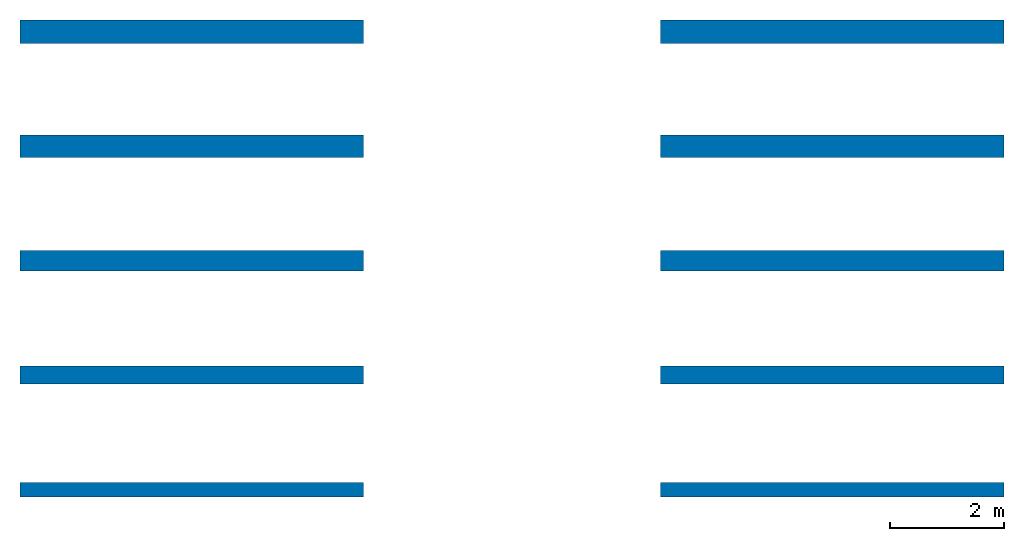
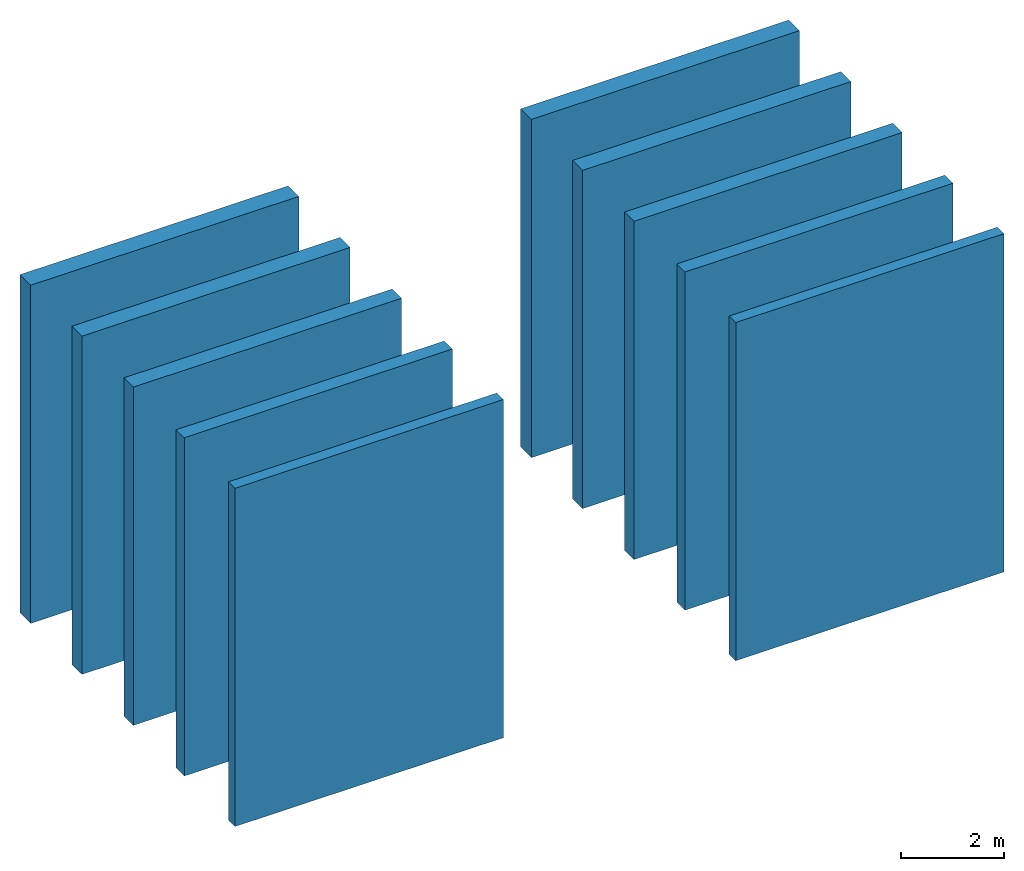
# One storey: 10 walls.
"""IFC2X3 building model written with IfcOpenShell, lengths in millimetres."""

from ifc_helpers import new_model, entity, si_unit, converted_unit, derived_unit, direction, frame, frame_2d, origin, place, context, subcontext, project, spatial, rectangle, extrude, material, layer, layer_set, layer_usage, type_object, element, save


model = new_model("IFC2X3")

# Units and contexts
model_context = context("Model", 3, precision=0.01, world=origin(), true_north=direction((6.12303176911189e-17, 1.0)))
context_of_model = context(None, 3, precision=0.01, world=origin(), true_north=direction((6.12303176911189e-17, 1.0)))
body_context = subcontext(model_context, "Body", "Model", "MODEL_VIEW")
ifc_project = project(units=[si_unit("LENGTHUNIT", "METRE", prefix="MILLI"), si_unit("AREAUNIT", "SQUARE_METRE"), si_unit("VOLUMEUNIT", "CUBIC_METRE"), converted_unit("PLANEANGLEUNIT", "DEGREE", entity("IfcRatioMeasure", 0.0174532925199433), si_unit("PLANEANGLEUNIT", "RADIAN"), dimensions=[0, 0, 0, 0, 0, 0, 0]), si_unit("MASSUNIT", "GRAM", prefix="KILO"), si_unit("TIMEUNIT", "SECOND"), si_unit("FREQUENCYUNIT", "HERTZ"), si_unit("THERMODYNAMICTEMPERATUREUNIT", "DEGREE_CELSIUS"), derived_unit("THERMALTRANSMITTANCEUNIT", [(si_unit("MASSUNIT", "GRAM", prefix="KILO"), 1), (si_unit("THERMODYNAMICTEMPERATUREUNIT", "KELVIN"), -1), (si_unit("TIMEUNIT", "SECOND"), -3)]), derived_unit("VOLUMETRICFLOWRATEUNIT", [(si_unit("LENGTHUNIT", "METRE"), 3), (si_unit("TIMEUNIT", "SECOND"), -1)]), si_unit("ELECTRICCURRENTUNIT", "AMPERE"), si_unit("ELECTRICVOLTAGEUNIT", "VOLT"), si_unit("POWERUNIT", "WATT"), si_unit("FORCEUNIT", "NEWTON", prefix="KILO"), si_unit("ILLUMINANCEUNIT", "LUX"), si_unit("LUMINOUSFLUXUNIT", "LUMEN"), si_unit("LUMINOUSINTENSITYUNIT", "CANDELA"), si_unit("PRESSUREUNIT", "PASCAL")], contexts=[model_context, context_of_model])

# Site, building, storey
site_placement = place(None, origin())
site = spatial("IfcSite", under=ifc_project, at=site_placement, Name="Default", CompositionType="ELEMENT")
building_placement = place(site_placement, origin())
building = spatial("IfcBuilding", under=site, at=building_placement, CompositionType="ELEMENT")
storey_placement = place(building_placement, origin())
storey = spatial("IfcBuildingStorey", under=building, at=storey_placement, Name="Livello 1", CompositionType="ELEMENT", Elevation=0.0)

# Walls
ifc_material_1 = material(Name="GASBETON Multiraso interni")
ifc_layer_1 = layer(ifc_material_1, 2.0)
ifc_material_2 = material(Name="GASBETON Incollarasa")
ifc_layer_2 = layer(ifc_material_2, 5.0)
ifc_material_3 = material(Name="GASBETON Sysmic")
ifc_layer_3 = layer(ifc_material_3, 400.0)
ifc_layer_4 = layer(ifc_material_2, 5.00000000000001)
ifc_layer_5 = layer(ifc_material_1, 2.00000000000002)
ifc_layer_set_1 = layer_set([ifc_layer_1, ifc_layer_2, ifc_layer_3, ifc_layer_4, ifc_layer_5], Name="Muro di base:Sistema GASBETON Sysmic sp. 414 mm muratura portante")
ifc_layer_usage_1 = layer_usage(ifc_layer_set_1, "AXIS2", "NEGATIVE", 207.0)
wall_type_1 = type_object("IfcWallType", Name="Muro di base:Sistema GASBETON Sysmic sp. 414 mm muratura portante", PredefinedType="STANDARD", material=ifc_layer_set_1)
wall_1_placement = place(storey_placement, frame((-2530.39888114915, 8446.74124989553, 0.0), z_axis=(0.0, 0.0, 1.0), x_axis=(-1.0, 0.0, 0.0)))
element("IfcWallStandardCase", 1, at=wall_1_placement, inside=storey, type_object=wall_type_1, material=ifc_layer_usage_1, Name="Muro di base:Sistema GASBETON Sysmic sp. 414 mm muratura portante", ObjectType="Muro di base:Sistema GASBETON Sysmic sp. 414 mm muratura portante", context=body_context, shape_type="SweptSolid", body=[
    extrude(rectangle(XDim=6000.0, YDim=413.999999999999, at=frame_2d((3000.0, 0.0), x_axis=(-1.0, 0.0))), origin(), (0.0, 0.0, 1.0), 8000.0),
])
ifc_layer_6 = layer(ifc_material_1, 2.0)
ifc_layer_7 = layer(ifc_material_2, 5.0)
ifc_layer_8 = layer(ifc_material_3, 375.0)
ifc_layer_9 = layer(ifc_material_2, 5.00000000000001)
ifc_layer_10 = layer(ifc_material_1, 2.00000000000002)
ifc_layer_set_2 = layer_set([ifc_layer_6, ifc_layer_7, ifc_layer_8, ifc_layer_9, ifc_layer_10], Name="Muro di base:Sistema GASBETON Sysmic sp. 389 mm muratura portante")
ifc_layer_usage_2 = layer_usage(ifc_layer_set_2, "AXIS2", "NEGATIVE", 194.5)
wall_type_2 = type_object("IfcWallType", Name="Muro di base:Sistema GASBETON Sysmic sp. 389 mm muratura portante", PredefinedType="STANDARD", material=ifc_layer_set_2)
wall_2_placement = place(storey_placement, frame((-2530.39888114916, 6446.74124989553, 0.0), z_axis=(0.0, 0.0, 1.0), x_axis=(-1.0, 0.0, 0.0)))
element("IfcWallStandardCase", 2, at=wall_2_placement, inside=storey, type_object=wall_type_2, material=ifc_layer_usage_2, Name="Muro di base:Sistema GASBETON Sysmic sp. 389 mm muratura portante", ObjectType="Muro di base:Sistema GASBETON Sysmic sp. 389 mm muratura portante", context=body_context, shape_type="SweptSolid", body=[
    extrude(rectangle(XDim=6000.0, YDim=389.0, at=frame_2d((3000.0, 0.0), x_axis=(-1.0, 0.0))), origin(), (0.0, 0.0, 1.0), 8000.0),
])
ifc_layer_11 = layer(ifc_material_1, 2.0)
ifc_layer_12 = layer(ifc_material_2, 5.0)
ifc_layer_13 = layer(ifc_material_3, 350.0)
ifc_layer_14 = layer(ifc_material_2, 5.00000000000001)
ifc_layer_15 = layer(ifc_material_1, 2.00000000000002)
ifc_layer_set_3 = layer_set([ifc_layer_11, ifc_layer_12, ifc_layer_13, ifc_layer_14, ifc_layer_15], Name="Muro di base:Sistema GASBETON Sysmic sp. 364 mm muratura portante")
ifc_layer_usage_3 = layer_usage(ifc_layer_set_3, "AXIS2", "NEGATIVE", 182.0)
wall_type_3 = type_object("IfcWallType", Name="Muro di base:Sistema GASBETON Sysmic sp. 364 mm muratura portante", PredefinedType="STANDARD", material=ifc_layer_set_3)
wall_3_placement = place(storey_placement, frame((-2530.39888114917, 4446.74124989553, 0.0), z_axis=(0.0, 0.0, 1.0), x_axis=(-1.0, 0.0, 0.0)))
element("IfcWallStandardCase", 3, at=wall_3_placement, inside=storey, type_object=wall_type_3, material=ifc_layer_usage_3, Name="Muro di base:Sistema GASBETON Sysmic sp. 364 mm muratura portante", ObjectType="Muro di base:Sistema GASBETON Sysmic sp. 364 mm muratura portante", context=body_context, shape_type="SweptSolid", body=[
    extrude(rectangle(XDim=6000.0, YDim=364.0, at=frame_2d((3000.0, 0.0), x_axis=(-1.0, 0.0))), origin(), (0.0, 0.0, 1.0), 8000.0),
])
ifc_layer_16 = layer(ifc_material_1, 2.0)
ifc_layer_17 = layer(ifc_material_2, 5.0)
ifc_layer_18 = layer(ifc_material_3, 300.0)
ifc_layer_19 = layer(ifc_material_2, 5.00000000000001)
ifc_layer_20 = layer(ifc_material_1, 1.99999999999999)
ifc_layer_set_4 = layer_set([ifc_layer_16, ifc_layer_17, ifc_layer_18, ifc_layer_19, ifc_layer_20], Name="Muro di base:Sistema GASBETON Sysmic sp. 314 mm muratura portante")
ifc_layer_usage_4 = layer_usage(ifc_layer_set_4, "AXIS2", "NEGATIVE", 157.0)
wall_type_4 = type_object("IfcWallType", Name="Muro di base:Sistema GASBETON Sysmic sp. 314 mm muratura portante", PredefinedType="STANDARD", material=ifc_layer_set_4)
wall_4_placement = place(storey_placement, frame((-2530.39888114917, 2446.74124989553, 0.0), z_axis=(0.0, 0.0, 1.0), x_axis=(-1.0, 0.0, 0.0)))
element("IfcWallStandardCase", 4, at=wall_4_placement, inside=storey, type_object=wall_type_4, material=ifc_layer_usage_4, Name="Muro di base:Sistema GASBETON Sysmic sp. 314 mm muratura portante", ObjectType="Muro di base:Sistema GASBETON Sysmic sp. 314 mm muratura portante", context=body_context, shape_type="SweptSolid", body=[
    extrude(rectangle(XDim=6000.0, YDim=314.0, at=frame_2d((3000.0, 0.0), x_axis=(-1.0, 0.0))), origin(), (0.0, 0.0, 1.0), 8000.0),
])
ifc_layer_21 = layer(ifc_material_1, 2.0)
ifc_layer_22 = layer(ifc_material_2, 5.0)
ifc_layer_23 = layer(ifc_material_3, 240.0)
ifc_layer_24 = layer(ifc_material_2, 5.00000000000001)
ifc_layer_25 = layer(ifc_material_1, 2.00000000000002)
ifc_layer_set_5 = layer_set([ifc_layer_21, ifc_layer_22, ifc_layer_23, ifc_layer_24, ifc_layer_25], Name="Muro di base:Sistema GASBETON Sysmic sp. 254 mm muratura portante")
ifc_layer_usage_5 = layer_usage(ifc_layer_set_5, "AXIS2", "NEGATIVE", 127.0)
wall_type_5 = type_object("IfcWallType", Name="Muro di base:Sistema GASBETON Sysmic sp. 254 mm muratura portante", PredefinedType="STANDARD", material=ifc_layer_set_5)
wall_5_placement = place(storey_placement, frame((-2530.39888114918, 446.741249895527, 0.0), z_axis=(0.0, 0.0, 1.0), x_axis=(-1.0, 0.0, 0.0)))
element("IfcWallStandardCase", 5, at=wall_5_placement, inside=storey, type_object=wall_type_5, material=ifc_layer_usage_5, Name="Muro di base:Sistema GASBETON Sysmic sp. 254 mm muratura portante", ObjectType="Muro di base:Sistema GASBETON Sysmic sp. 254 mm muratura portante", context=body_context, shape_type="SweptSolid", body=[
    extrude(rectangle(XDim=6000.0, YDim=254.0, at=frame_2d((3000.0, 0.0), x_axis=(-1.0, 0.0))), origin(), (0.0, 0.0, 1.0), 8000.0),
])
ifc_layer_26 = layer(ifc_material_1, 2.0)
ifc_layer_27 = layer(ifc_material_2, 5.0)
ifc_layer_28 = layer(ifc_material_3, 240.0)
ifc_layer_29 = layer(ifc_material_2, 5.00000000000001)
ifc_layer_30 = layer(ifc_material_1, 2.00000000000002)
ifc_layer_set_6 = layer_set([ifc_layer_26, ifc_layer_27, ifc_layer_28, ifc_layer_29, ifc_layer_30], Name="Muro di base:Sistema GASBETON Sysmic+ IDRO sp. 254 mm muratura portante")
ifc_layer_usage_6 = layer_usage(ifc_layer_set_6, "AXIS2", "NEGATIVE", 127.0)
wall_type_6 = type_object("IfcWallType", Name="Muro di base:Sistema GASBETON Sysmic+ IDRO sp. 254 mm muratura portante", PredefinedType="STANDARD", material=ifc_layer_set_6)
wall_6_placement = place(storey_placement, frame((2669.60111885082, 446.741249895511, 0.0)))
element("IfcWallStandardCase", 6, at=wall_6_placement, inside=storey, type_object=wall_type_6, material=ifc_layer_usage_6, Name="Muro di base:Sistema GASBETON Sysmic+ IDRO sp. 254 mm muratura portante", ObjectType="Muro di base:Sistema GASBETON Sysmic+ IDRO sp. 254 mm muratura portante", context=body_context, shape_type="SweptSolid", body=[
    extrude(rectangle(XDim=6000.0, YDim=254.0, at=frame_2d((3000.0, 0.0), x_axis=(-1.0, 0.0))), origin(), (0.0, 0.0, 1.0), 8000.0),
])
ifc_layer_31 = layer(ifc_material_1, 2.0)
ifc_layer_32 = layer(ifc_material_2, 5.0)
ifc_layer_33 = layer(ifc_material_3, 400.0)
ifc_layer_34 = layer(ifc_material_2, 5.00000000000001)
ifc_layer_35 = layer(ifc_material_1, 2.00000000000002)
ifc_layer_set_7 = layer_set([ifc_layer_31, ifc_layer_32, ifc_layer_33, ifc_layer_34, ifc_layer_35], Name="Muro di base:Sistema GASBETON Sysmic+ IDRO sp. 414 mm muratura portante")
ifc_layer_usage_7 = layer_usage(ifc_layer_set_7, "AXIS2", "NEGATIVE", 207.0)
wall_type_7 = type_object("IfcWallType", Name="Muro di base:Sistema GASBETON Sysmic+ IDRO sp. 414 mm muratura portante", PredefinedType="STANDARD", material=ifc_layer_set_7)
wall_7_placement = place(storey_placement, frame((8669.60111885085, 8446.74124989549, 0.0), z_axis=(0.0, 0.0, 1.0), x_axis=(-1.0, 0.0, 0.0)))
element("IfcWallStandardCase", 7, at=wall_7_placement, inside=storey, type_object=wall_type_7, material=ifc_layer_usage_7, Name="Muro di base:Sistema GASBETON Sysmic+ IDRO sp. 414 mm muratura portante", ObjectType="Muro di base:Sistema GASBETON Sysmic+ IDRO sp. 414 mm muratura portante", context=body_context, shape_type="SweptSolid", body=[
    extrude(rectangle(XDim=6000.0, YDim=413.999999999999, at=frame_2d((3000.0, 0.0), x_axis=(-1.0, 0.0))), origin(), (0.0, 0.0, 1.0), 8000.0),
])
ifc_layer_36 = layer(ifc_material_1, 2.0)
ifc_layer_37 = layer(ifc_material_2, 5.0)
ifc_layer_38 = layer(ifc_material_3, 375.0)
ifc_layer_39 = layer(ifc_material_2, 5.00000000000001)
ifc_layer_40 = layer(ifc_material_1, 2.00000000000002)
ifc_layer_set_8 = layer_set([ifc_layer_36, ifc_layer_37, ifc_layer_38, ifc_layer_39, ifc_layer_40], Name="Muro di base:Sistema GASBETON Sysmic+ IDRO sp. 389 mm muratura portante")
ifc_layer_usage_8 = layer_usage(ifc_layer_set_8, "AXIS2", "NEGATIVE", 194.5)
wall_type_8 = type_object("IfcWallType", Name="Muro di base:Sistema GASBETON Sysmic+ IDRO sp. 389 mm muratura portante", PredefinedType="STANDARD", material=ifc_layer_set_8)
wall_8_placement = place(storey_placement, frame((8669.60111885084, 6446.74124989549, 0.0), z_axis=(0.0, 0.0, 1.0), x_axis=(-1.0, 0.0, 0.0)))
element("IfcWallStandardCase", 8, at=wall_8_placement, inside=storey, type_object=wall_type_8, material=ifc_layer_usage_8, Name="Muro di base:Sistema GASBETON Sysmic+ IDRO sp. 389 mm muratura portante", ObjectType="Muro di base:Sistema GASBETON Sysmic+ IDRO sp. 389 mm muratura portante", context=body_context, shape_type="SweptSolid", body=[
    extrude(rectangle(XDim=6000.0, YDim=389.0, at=frame_2d((3000.0, 0.0), x_axis=(-1.0, 0.0))), origin(), (0.0, 0.0, 1.0), 8000.0),
])
ifc_layer_41 = layer(ifc_material_1, 2.0)
ifc_layer_42 = layer(ifc_material_2, 5.0)
ifc_layer_43 = layer(ifc_material_3, 350.0)
ifc_layer_44 = layer(ifc_material_2, 5.00000000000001)
ifc_layer_45 = layer(ifc_material_1, 2.00000000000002)
ifc_layer_set_9 = layer_set([ifc_layer_41, ifc_layer_42, ifc_layer_43, ifc_layer_44, ifc_layer_45], Name="Muro di base:Sistema GASBETON Sysmic+ IDRO sp. 364 mm muratura portante")
ifc_layer_usage_9 = layer_usage(ifc_layer_set_9, "AXIS2", "NEGATIVE", 182.0)
wall_type_9 = type_object("IfcWallType", Name="Muro di base:Sistema GASBETON Sysmic+ IDRO sp. 364 mm muratura portante", PredefinedType="STANDARD", material=ifc_layer_set_9)
wall_9_placement = place(storey_placement, frame((8669.60111885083, 4446.74124989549, 0.0), z_axis=(0.0, 0.0, 1.0), x_axis=(-1.0, 0.0, 0.0)))
element("IfcWallStandardCase", 9, at=wall_9_placement, inside=storey, type_object=wall_type_9, material=ifc_layer_usage_9, Name="Muro di base:Sistema GASBETON Sysmic+ IDRO sp. 364 mm muratura portante", ObjectType="Muro di base:Sistema GASBETON Sysmic+ IDRO sp. 364 mm muratura portante", context=body_context, shape_type="SweptSolid", body=[
    extrude(rectangle(XDim=6000.0, YDim=364.0, at=frame_2d((3000.0, 0.0), x_axis=(-1.0, 0.0))), origin(), (0.0, 0.0, 1.0), 8000.0),
])
ifc_layer_46 = layer(ifc_material_1, 2.0)
ifc_layer_47 = layer(ifc_material_2, 5.0)
ifc_layer_48 = layer(ifc_material_3, 300.0)
ifc_layer_49 = layer(ifc_material_2, 5.00000000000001)
ifc_layer_50 = layer(ifc_material_1, 1.99999999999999)
ifc_layer_set_10 = layer_set([ifc_layer_46, ifc_layer_47, ifc_layer_48, ifc_layer_49, ifc_layer_50], Name="Muro di base:Sistema GASBETON Sysmic+ IDRO sp. 314 mm muratura portante")
ifc_layer_usage_10 = layer_usage(ifc_layer_set_10, "AXIS2", "NEGATIVE", 157.0)
wall_type_10 = type_object("IfcWallType", Name="Muro di base:Sistema GASBETON Sysmic+ IDRO sp. 314 mm muratura portante", PredefinedType="STANDARD", material=ifc_layer_set_10)
wall_10_placement = place(storey_placement, frame((8669.60111885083, 2446.74124989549, 0.0), z_axis=(0.0, 0.0, 1.0), x_axis=(-1.0, 0.0, 0.0)))
element("IfcWallStandardCase", 10, at=wall_10_placement, inside=storey, type_object=wall_type_10, material=ifc_layer_usage_10, Name="Muro di base:Sistema GASBETON Sysmic+ IDRO sp. 314 mm muratura portante", ObjectType="Muro di base:Sistema GASBETON Sysmic+ IDRO sp. 314 mm muratura portante", context=body_context, shape_type="SweptSolid", body=[
    extrude(rectangle(XDim=6000.0, YDim=314.0, at=frame_2d((3000.0, 0.0), x_axis=(-1.0, 0.0))), origin(), (0.0, 0.0, 1.0), 8000.0),
])

save(model, "model.ifc")
